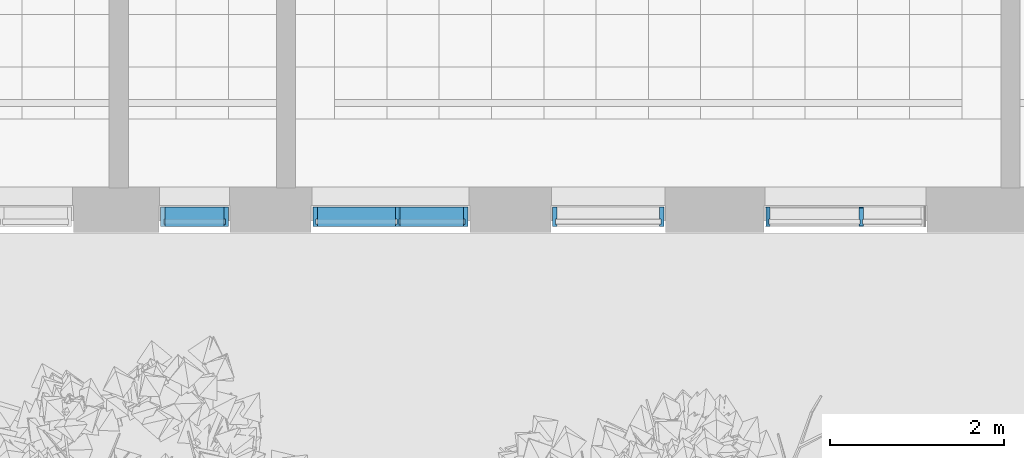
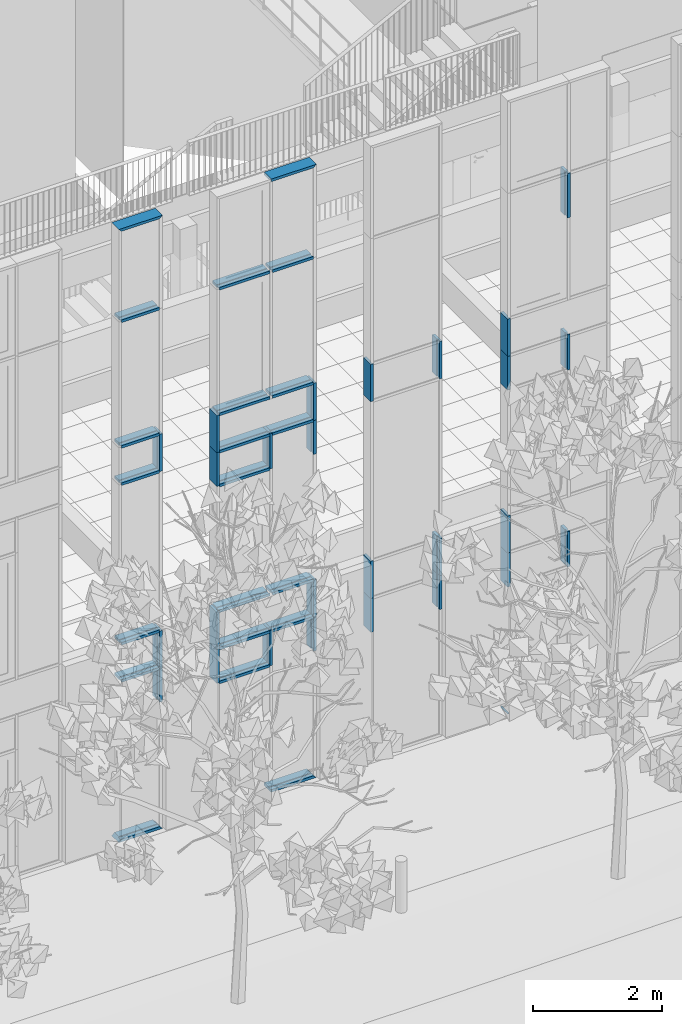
# One storey, part 33 of 246: 48 members, 4 elements without a shape of their own.
"""IFC2X3 building model written with IfcOpenShell, lengths in millimetres."""

from ifc_helpers import new_model, entity, si_unit, converted_unit, derived_unit, money_unit, direction, frame, origin_with_axes, place, context, subcontext, project, spatial, faceted_brep, source, transform, mapped, material, type_object, element, aggregate, save


model = new_model("IFC2X3")

# Units and contexts
model_context = context("Model", 3, precision=0.01, world=origin_with_axes(), true_north=direction((0.0, 1.0)))
body_context = subcontext(model_context, "Body", "Model", "MODEL_VIEW")
ifc_project = project(units=[si_unit("LENGTHUNIT", "METRE", prefix="MILLI"), si_unit("AREAUNIT", "SQUARE_METRE"), si_unit("VOLUMEUNIT", "CUBIC_METRE"), converted_unit("PLANEANGLEUNIT", "DEGREE", entity("IfcPlaneAngleMeasure", 0.0174532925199), si_unit("PLANEANGLEUNIT", "RADIAN"), dimensions=[0, 0, 0, 0, 0, 0, 0]), si_unit("SOLIDANGLEUNIT", "STERADIAN"), money_unit("EUR"), converted_unit("TIMEUNIT", "Year", entity("IfcTimeMeasure", 31556926.0), si_unit("TIMEUNIT", "SECOND"), dimensions=[0, 0, 1, 0, 0, 0, 0]), si_unit("MASSUNIT", "GRAM", prefix="KILO"), si_unit("THERMODYNAMICTEMPERATUREUNIT", "DEGREE_CELSIUS"), si_unit("LUMINOUSINTENSITYUNIT", "LUMEN"), si_unit("ENERGYUNIT", "JOULE", prefix="MEGA"), derived_unit("THERMALCONDUCTANCEUNIT", [(si_unit("POWERUNIT", "WATT"), 1), (si_unit("LENGTHUNIT", "METRE"), -1), (si_unit("THERMODYNAMICTEMPERATUREUNIT", "KELVIN"), -1)]), derived_unit("SPECIFICHEATCAPACITYUNIT", [(si_unit("ENERGYUNIT", "JOULE"), 1), (si_unit("MASSUNIT", "GRAM", prefix="KILO"), -1), (si_unit("THERMODYNAMICTEMPERATUREUNIT", "KELVIN"), -1)]), derived_unit("MASSDENSITYUNIT", [(si_unit("MASSUNIT", "GRAM", prefix="KILO"), 1), (si_unit("VOLUMEUNIT", "CUBIC_METRE"), -1)])], contexts=[model_context])

# Site, building, storey
site_placement = place(None, origin_with_axes())
site = spatial("IfcSite", under=ifc_project, at=site_placement, Name="L.Koidula tn 11b", CompositionType="ELEMENT")
building_placement = place(site_placement, origin_with_axes())
building = spatial("IfcBuilding", under=site, at=building_placement, Name="Rakvere Riigigümnaasium", CompositionType="ELEMENT")
storey_placement = place(building_placement, origin_with_axes())
storey = spatial("IfcBuildingStorey", under=building, at=storey_placement, Name="1.korrus 0,00", CompositionType="ELEMENT", Elevation=0.0)

# Curtain wall, members
curtain_wall_type = type_object("IfcCurtainWallType", Name="Curtain Wall Type", PredefinedType="NOTDEFINED")
curtain_wall_1_placement = place(storey_placement, frame((54287.5000684, 5111.45334637, -1.61944652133e-05), z_axis=(0.0, 0.0, 1.0), x_axis=(1.0, 0.0, 0.0)))
curtain_wall_1 = element("IfcCurtainWall", 1, at=curtain_wall_1_placement, inside=storey, type_object=curtain_wall_type, Name="KLF-05-2B")
ifc_material = material(Name="Alumiiniumprofiil (RAL 7021)")
member_type_1 = type_object("IfcMemberType", Name="Boundary Frame 50 x 222", PredefinedType="MULLION")
shared_shape_1 = source(origin_with_axes(), body_context, "Body", "Brep", [
    faceted_brep([(37.0, -32.5, 705.000000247), (37.0, 32.5, 705.000000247), (50.0, 32.5, 705.000000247), (50.0, 53.0, 705.000000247), (0.0, 53.0, 705.000000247), (0.0, -169.0, 705.000000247), (50.0, -169.0, 705.000000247), (50.0, -32.5, 705.000000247), (37.0, -32.5, 0.0), (37.0, 32.5, 0.0), (50.0, 32.5, 0.0), (50.0, 53.0, 0.0), (0.0, 53.0, 0.0), (0.0, -169.0, 0.0), (50.0, -169.0, 0.0), (50.0, -32.5, 0.0)], [[[0, 1, 2, 3, 4, 5, 6, 7]], [[1, 0, 8, 9]], [[10, 2, 1, 9]], [[2, 10, 11, 3]], [[12, 4, 3, 11]], [[13, 5, 4, 12]], [[14, 6, 5, 13]], [[15, 7, 6, 14]], [[0, 7, 15, 8]], [[8, 15, 14, 13, 12, 11, 10, 9]]]),
])
member_1_placement = place(curtain_wall_1_placement, frame((402.500049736, 0.0, 6760.0), z_axis=(0.0, 0.0, 1.0), x_axis=(-1.0, 0.0, 0.0)))
member_1 = element("IfcMember", 2, at=member_1_placement, type_object=member_type_1, material=ifc_material, Name="KLF-05-6B-Profiilid", ObjectType="MULLION", context=body_context, shape_type="MappedRepresentation", body=[
    mapped(shared_shape_1, transform((0.0, 0.0, 0.0))),
])
member_2_placement = place(curtain_wall_1_placement, frame((402.500049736, 0.0, 3040.0), z_axis=(0.0, 0.0, 1.0), x_axis=(-1.0, 0.0, 0.0)))
member_2 = element("IfcMember", 3, at=member_2_placement, type_object=member_type_1, material=ifc_material, Name="KLF-05-3B-Profiilid", ObjectType="MULLION", context=body_context, shape_type="MappedRepresentation", body=[
    mapped(shared_shape_1, transform((0.0, 0.0, 0.0))),
])

curtain_wall_2_placement = place(storey_placement, frame((51550.0001978, 5111.45334637, -1.61944652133e-05), z_axis=(0.0, 0.0, 1.0), x_axis=(1.0, 0.0, 0.0)))
curtain_wall_2 = element("IfcCurtainWall", 4, at=curtain_wall_2_placement, inside=storey, type_object=curtain_wall_type, Name="KLF-05-4A")
member_3_placement = place(curtain_wall_2_placement, frame((390.000208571, 0.0, 6760.0), z_axis=(0.0, 0.0, 1.0), x_axis=(-1.0, 0.0, 0.0)))
member_3 = element("IfcMember", 5, at=member_3_placement, type_object=member_type_1, material=ifc_material, Name="KLF-05-9A-Profiilid", ObjectType="MULLION", context=body_context, shape_type="MappedRepresentation", body=[
    mapped(shared_shape_1, transform((0.0, 0.0, 0.0))),
])
member_4_placement = place(curtain_wall_2_placement, frame((390.000208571, 0.0, 3040.0), z_axis=(0.0, 0.0, 1.0), x_axis=(-1.0, 0.0, 0.0)))
member_4 = element("IfcMember", 6, at=member_4_placement, type_object=member_type_1, material=ifc_material, Name="KLF-05-7A-Profiilid", ObjectType="MULLION", context=body_context, shape_type="MappedRepresentation", body=[
    mapped(shared_shape_1, transform((0.0, 0.0, 0.0))),
])

curtain_wall_3_placement = place(storey_placement, frame((56300.0000472, 5111.45334637, -1.61944652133e-05), z_axis=(0.0, 0.0, 1.0), x_axis=(1.0, 0.0, 0.0)))
curtain_wall_3 = element("IfcCurtainWall", 7, at=curtain_wall_3_placement, inside=storey, type_object=curtain_wall_type, Name="KLF-05-1E")
member_5_placement = place(curtain_wall_3_placement, frame((640.000087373, 0.0, 6760.0), z_axis=(0.0, 0.0, 1.0), x_axis=(-1.0, 0.0, 0.0)))
member_5 = element("IfcMember", 8, at=member_5_placement, type_object=member_type_1, material=ifc_material, Name="KLF-05-6A-Profiilid", ObjectType="MULLION", context=body_context, shape_type="MappedRepresentation", body=[
    mapped(shared_shape_1, transform((0.0, 0.0, 0.0))),
])
member_6_placement = place(curtain_wall_3_placement, frame((640.000087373, 0.0, 3040.0), z_axis=(0.0, 0.0, 1.0), x_axis=(-1.0, 0.0, 0.0)))
member_6 = element("IfcMember", 9, at=member_6_placement, type_object=member_type_1, material=ifc_material, Name="KLF-05-4A-Profiilid", ObjectType="MULLION", context=body_context, shape_type="MappedRepresentation", body=[
    mapped(shared_shape_1, transform((0.0, 0.0, 0.0))),
])

# Member
shared_shape_2 = source(origin_with_axes(), body_context, "Body", "Brep", [
    faceted_brep([(37.0, -32.5, 640.0), (37.0, 32.5, 640.0), (50.0, 32.5, 640.0), (50.0, 53.0, 640.0), (0.0, 53.0, 640.0), (0.0, -169.0, 640.0), (50.0, -169.0, 640.0), (50.0, -32.5, 640.0), (37.0, -32.5, 0.0), (37.0, 32.5, 0.0), (50.0, 32.5, 0.0), (50.0, 53.0, 0.0), (0.0, 53.0, 0.0), (0.0, -169.0, 0.0), (50.0, -169.0, 0.0), (50.0, -32.5, 0.0)], [[[0, 1, 2, 3, 4, 5, 6, 7]], [[1, 0, 8, 9]], [[10, 2, 1, 9]], [[2, 10, 11, 3]], [[12, 4, 3, 11]], [[13, 5, 4, 12]], [[14, 6, 5, 13]], [[15, 7, 6, 14]], [[0, 7, 15, 8]], [[8, 15, 14, 13, 12, 11, 10, 9]]]),
])
member_7_placement = place(curtain_wall_1_placement, frame((402.500049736, 0.0, 6120.0), z_axis=(0.0, 0.0, 1.0), x_axis=(-1.0, 0.0, 0.0)))
member_7 = element("IfcMember", 10, at=member_7_placement, type_object=member_type_1, material=ifc_material, Name="KLF-05-5B-Profiilid", ObjectType="MULLION", context=body_context, shape_type="MappedRepresentation", body=[
    mapped(shared_shape_2, transform((0.0, 0.0, 0.0))),
])

member_8_placement = place(curtain_wall_1_placement, frame((402.500049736, 0.0, 2400.0), z_axis=(0.0, 0.0, 1.0), x_axis=(-1.0, 0.0, 0.0)))
member_8 = element("IfcMember", 11, at=member_8_placement, type_object=member_type_1, material=ifc_material, Name="KLF-05-2B-Profiilid", ObjectType="MULLION", context=body_context, shape_type="MappedRepresentation", body=[
    mapped(shared_shape_2, transform((0.0, 0.0, 0.0))),
])

member_9_placement = place(curtain_wall_2_placement, frame((390.000208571, 0.0, 2400.0), z_axis=(0.0, 0.0, 1.0), x_axis=(-1.0, 0.0, 0.0)))
member_9 = element("IfcMember", 12, at=member_9_placement, type_object=member_type_1, material=ifc_material, Name="KLF-05-6A-Profiilid", ObjectType="MULLION", context=body_context, shape_type="MappedRepresentation", body=[
    mapped(shared_shape_2, transform((0.0, 0.0, 0.0))),
])

member_10_placement = place(curtain_wall_3_placement, frame((640.000087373, 0.0, 2400.0), z_axis=(0.0, 0.0, 1.0), x_axis=(-1.0, 0.0, 0.0)))
member_10 = element("IfcMember", 13, at=member_10_placement, type_object=member_type_1, material=ifc_material, Name="KLF-05-3A-Profiilid", ObjectType="MULLION", context=body_context, shape_type="MappedRepresentation", body=[
    mapped(shared_shape_2, transform((0.0, 0.0, 0.0))),
])

shared_shape_3 = source(origin_with_axes(), body_context, "Body", "Brep", [
    faceted_brep([(-37.0, -32.5, 705.0), (-50.0, -32.5, 705.0), (-50.0, -169.0, 705.0), (0.0, -169.0, 705.0), (0.0, 53.0, 705.0), (-50.0, 53.0, 705.0), (-50.0, 32.5, 705.0), (-37.0, 32.5, 705.0), (-37.0, -32.5, 0.0), (-50.0, -32.5, 0.0), (-50.0, -169.0, 0.0), (0.0, -169.0, 0.0), (0.0, 53.0, 0.0), (-50.0, 53.0, 0.0), (-50.0, 32.5, 0.0), (-37.0, 32.5, 0.0)], [[[0, 1, 2, 3, 4, 5, 6, 7]], [[0, 8, 9, 1]], [[9, 10, 2, 1]], [[10, 11, 3, 2]], [[11, 12, 4, 3]], [[12, 13, 5, 4]], [[6, 5, 13, 14]], [[14, 15, 7, 6]], [[7, 15, 8, 0]], [[8, 15, 14, 13, 12, 11, 10, 9]]]),
])
member_11_placement = place(curtain_wall_1_placement, frame((-1377.50004974, 0.0, 3040.0), z_axis=(0.0, 0.0, 1.0), x_axis=(-1.0, 0.0, 0.0)))
member_11 = element("IfcMember", 14, at=member_11_placement, type_object=member_type_1, material=ifc_material, Name="KLF-05-6B-Profiilid", ObjectType="MULLION", context=body_context, shape_type="MappedRepresentation", body=[
    mapped(shared_shape_3, transform((0.0, 0.0, 0.0))),
])

member_12_placement = place(curtain_wall_1_placement, frame((-1377.50004974, 0.0, 6760.0), z_axis=(0.0, 0.0, 1.0), x_axis=(-1.0, 0.0, 0.0)))
member_12 = element("IfcMember", 15, at=member_12_placement, type_object=member_type_1, material=ifc_material, Name="KLF-05-3B-Profiilid", ObjectType="MULLION", context=body_context, shape_type="MappedRepresentation", body=[
    mapped(shared_shape_3, transform((0.0, 0.0, 0.0))),
])

member_13_placement = place(curtain_wall_3_placement, frame((-640.00005, 0.0, 3040.0), z_axis=(0.0, 0.0, 1.0), x_axis=(-1.0, 0.0, 0.0)))
member_13 = element("IfcMember", 16, at=member_13_placement, type_object=member_type_1, material=ifc_material, Name="KLF-05-4A-Profiilid", ObjectType="MULLION", context=body_context, shape_type="MappedRepresentation", body=[
    mapped(shared_shape_3, transform((0.0, 0.0, 0.0))),
])

member_14_placement = place(curtain_wall_3_placement, frame((-640.00005, 0.0, 6760.0), z_axis=(0.0, 0.0, 1.0), x_axis=(-1.0, 0.0, 0.0)))
member_14 = element("IfcMember", 17, at=member_14_placement, type_object=member_type_1, material=ifc_material, Name="KLF-05-2A-Profiilid", ObjectType="MULLION", context=body_context, shape_type="MappedRepresentation", body=[
    mapped(shared_shape_3, transform((0.0, 0.0, 0.0))),
])

# Curtain wall, members
curtain_wall_4_placement = place(storey_placement, frame((59064.0000846, 5111.45334637, -8.09717250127e-06), z_axis=(0.0, 0.0, 1.0), x_axis=(1.0, 0.0, 0.0)))
curtain_wall_4 = element("IfcCurtainWall", 18, at=curtain_wall_4_placement, inside=storey, type_object=curtain_wall_type, Name="KLF-05-2A")
member_15_placement = place(curtain_wall_4_placement, frame((-954.000087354, 0.0, 3040.0), z_axis=(0.0, 0.0, 1.0), x_axis=(-1.0, 0.0, 0.0)))
member_15 = element("IfcMember", 19, at=member_15_placement, type_object=member_type_1, material=ifc_material, Name="KLF-05-7A-Profiilid", ObjectType="MULLION", context=body_context, shape_type="MappedRepresentation", body=[
    mapped(shared_shape_3, transform((0.0, 0.0, 0.0))),
])
member_16_placement = place(curtain_wall_4_placement, frame((-954.000087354, 0.0, 6760.0), z_axis=(0.0, 0.0, 1.0), x_axis=(-1.0, 0.0, 0.0)))
member_16 = element("IfcMember", 20, at=member_16_placement, type_object=member_type_1, material=ifc_material, Name="KLF-05-4A-Profiilid", ObjectType="MULLION", context=body_context, shape_type="MappedRepresentation", body=[
    mapped(shared_shape_3, transform((0.0, 0.0, 0.0))),
])

# Member
shared_shape_4 = source(origin_with_axes(), body_context, "Body", "Brep", [
    faceted_brep([(-37.0, -32.5, 640.0), (-50.0, -32.5, 640.0), (-50.0, -169.0, 640.0), (0.0, -169.0, 640.0), (0.0, 53.0, 640.0), (-50.0, 53.0, 640.0), (-50.0, 32.5, 640.0), (-37.0, 32.5, 640.0), (-37.0, -32.5, 0.0), (-50.0, -32.5, 0.0), (-50.0, -169.0, 0.0), (0.0, -169.0, 0.0), (0.0, 53.0, 0.0), (-50.0, 53.0, 0.0), (-50.0, 32.5, 0.0), (-37.0, 32.5, 0.0)], [[[0, 1, 2, 3, 4, 5, 6, 7]], [[0, 8, 9, 1]], [[9, 10, 2, 1]], [[10, 11, 3, 2]], [[11, 12, 4, 3]], [[12, 13, 5, 4]], [[6, 5, 13, 14]], [[14, 15, 7, 6]], [[7, 15, 8, 0]], [[8, 15, 14, 13, 12, 11, 10, 9]]]),
])
member_17_placement = place(curtain_wall_1_placement, frame((-1377.50004974, 0.0, 2400.0), z_axis=(0.0, 0.0, 1.0), x_axis=(-1.0, 0.0, 0.0)))
member_17 = element("IfcMember", 21, at=member_17_placement, type_object=member_type_1, material=ifc_material, Name="KLF-05-7B-Profiilid", ObjectType="MULLION", context=body_context, shape_type="MappedRepresentation", body=[
    mapped(shared_shape_4, transform((0.0, 0.0, 0.0))),
])

member_18_placement = place(curtain_wall_1_placement, frame((-1377.50004974, 0.0, 6120.0), z_axis=(0.0, 0.0, 1.0), x_axis=(-1.0, 0.0, 0.0)))
member_18 = element("IfcMember", 22, at=member_18_placement, type_object=member_type_1, material=ifc_material, Name="KLF-05-4B-Profiilid", ObjectType="MULLION", context=body_context, shape_type="MappedRepresentation", body=[
    mapped(shared_shape_4, transform((0.0, 0.0, 0.0))),
])

member_19_placement = place(curtain_wall_3_placement, frame((-640.00005, 0.0, 2400.0), z_axis=(0.0, 0.0, 1.0), x_axis=(-1.0, 0.0, 0.0)))
member_19 = element("IfcMember", 23, at=member_19_placement, type_object=member_type_1, material=ifc_material, Name="KLF-05-5A-Profiilid", ObjectType="MULLION", context=body_context, shape_type="MappedRepresentation", body=[
    mapped(shared_shape_4, transform((0.0, 0.0, 0.0))),
])

aggregate(curtain_wall_3, [member_19, member_13, member_14, member_5, member_6, member_10])

member_20_placement = place(curtain_wall_4_placement, frame((-954.000087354, 0.0, 2400.0), z_axis=(0.0, 0.0, 1.0), x_axis=(-1.0, 0.0, 0.0)))
member_20 = element("IfcMember", 24, at=member_20_placement, type_object=member_type_1, material=ifc_material, Name="KLF-05-8A-Profiilid", ObjectType="MULLION", context=body_context, shape_type="MappedRepresentation", body=[
    mapped(shared_shape_4, transform((0.0, 0.0, 0.0))),
])

member_21_placement = place(curtain_wall_4_placement, frame((-954.000087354, 0.0, 6120.0), z_axis=(0.0, 0.0, 1.0), x_axis=(-1.0, 0.0, 0.0)))
member_21 = element("IfcMember", 25, at=member_21_placement, type_object=member_type_1, material=ifc_material, Name="KLF-05-5A-Profiilid", ObjectType="MULLION", context=body_context, shape_type="MappedRepresentation", body=[
    mapped(shared_shape_4, transform((0.0, 0.0, 0.0))),
])

member_type_2 = type_object("IfcMemberType", Name="Transom Frame 50 x 222", PredefinedType="MULLION")
shared_shape_5 = source(origin_with_axes(), body_context, "Body", "Brep", [
    faceted_brep([(-12.0, -32.5, 730.000405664), (-25.0, -32.5, 730.000405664), (-25.0, -169.0, 730.000405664), (25.0, -169.0, 730.000405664), (25.0, -32.5, 730.000405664), (12.0, -32.5, 730.000405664), (12.0, 32.5, 730.000405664), (25.0, 32.5, 730.000405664), (25.0, 53.0, 730.000405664), (-25.0, 53.0, 730.000405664), (-25.0, 32.5, 730.000405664), (-12.0, 32.5, 730.000405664), (-12.0, -32.5, 50.0), (-25.0, -32.5, 50.0), (-25.0, -169.0, 50.0), (25.0, -169.0, 50.0), (25.0, -32.5, 50.0), (12.0, -32.5, 50.0), (12.0, 32.5, 50.0), (25.0, 32.5, 50.0), (25.0, 53.0, 50.0), (-25.0, 53.0, 50.0), (-25.0, 32.5, 50.0), (-12.0, 32.5, 50.0)], [[[0, 1, 2, 3, 4, 5, 6, 7, 8, 9, 10, 11]], [[1, 0, 12, 13]], [[1, 13, 14, 2]], [[2, 14, 15, 3]], [[4, 3, 15, 16]], [[4, 16, 17, 5]], [[5, 17, 18, 6]], [[7, 6, 18, 19]], [[19, 20, 8, 7]], [[8, 20, 21, 9]], [[22, 10, 9, 21]], [[11, 10, 22, 23]], [[0, 11, 23, 12]], [[23, 22, 21, 20, 19, 18, 17, 16, 15, 14, 13, 12]]]),
])
member_22_placement = place(curtain_wall_2_placement, frame((-390.000197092, 0.0, 3040.0), z_axis=(1.0, 0.0, 0.0), x_axis=(0.0, 0.0, 1.0)))
member_22 = element("IfcMember", 26, at=member_22_placement, type_object=member_type_2, material=ifc_material, Name="KLF-05-9A-Profiilid", ObjectType="MULLION", context=body_context, shape_type="MappedRepresentation", body=[
    mapped(shared_shape_5, transform((0.0, 0.0, 0.0))),
])

member_23_placement = place(curtain_wall_2_placement, frame((-390.000197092, 0.0, 9840.0), z_axis=(1.0, 0.0, 0.0), x_axis=(0.0, 0.0, 1.0)))
member_23 = element("IfcMember", 27, at=member_23_placement, type_object=member_type_2, material=ifc_material, Name="KLF-05-0A-Profiilid", ObjectType="MULLION", context=body_context, shape_type="MappedRepresentation", body=[
    mapped(shared_shape_5, transform((0.0, 0.0, 0.0))),
])

member_24_placement = place(curtain_wall_2_placement, frame((-390.000197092, 0.0, 7465.0), z_axis=(1.0, 0.0, 0.0), x_axis=(0.0, 0.0, 1.0)))
member_24 = element("IfcMember", 28, at=member_24_placement, type_object=member_type_2, material=ifc_material, Name="KLF-05-1A-Profiilid", ObjectType="MULLION", context=body_context, shape_type="MappedRepresentation", body=[
    mapped(shared_shape_5, transform((0.0, 0.0, 0.0))),
])

member_25_placement = place(curtain_wall_2_placement, frame((-390.000197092, 0.0, 6760.0), z_axis=(1.0, 0.0, 0.0), x_axis=(0.0, 0.0, 1.0)))
member_25 = element("IfcMember", 29, at=member_25_placement, type_object=member_type_2, material=ifc_material, Name="KLF-05-2A-Profiilid", ObjectType="MULLION", context=body_context, shape_type="MappedRepresentation", body=[
    mapped(shared_shape_5, transform((0.0, 0.0, 0.0))),
])

member_26_placement = place(curtain_wall_2_placement, frame((-390.000197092, 0.0, 3745.0), z_axis=(1.0, 0.0, 0.0), x_axis=(0.0, 0.0, 1.0)))
member_26 = element("IfcMember", 30, at=member_26_placement, type_object=member_type_2, material=ifc_material, Name="KLF-05-7A-Profiilid", ObjectType="MULLION", context=body_context, shape_type="MappedRepresentation", body=[
    mapped(shared_shape_5, transform((0.0, 0.0, 0.0))),
])

member_type_3 = type_object("IfcMemberType", Name="Mullion Frame 50 x 222", PredefinedType="MULLION")
shared_shape_6 = source(origin_with_axes(), body_context, "Body", "Brep", [
    faceted_brep([(-12.0, -32.5, 665.0), (-25.0, -32.5, 665.0), (-25.0, -169.0, 665.0), (25.0, -169.0, 665.0), (25.0, -32.5, 665.0), (12.0, -32.5, 665.0), (12.0, 32.5, 665.0), (25.0, 32.5, 665.0), (25.0, 53.0, 665.0), (-25.0, 53.0, 665.0), (-25.0, 32.5, 665.0), (-12.0, 32.5, 665.0), (-12.0, -32.5, 0.0), (-25.0, -32.5, 0.0), (-25.0, -169.0, 0.0), (25.0, -169.0, 0.0), (25.0, -32.5, 0.0), (12.0, -32.5, 0.0), (12.0, 32.5, 0.0), (25.0, 32.5, 0.0), (25.0, 53.0, 0.0), (-25.0, 53.0, 0.0), (-25.0, 32.5, 0.0), (-12.0, 32.5, 0.0)], [[[0, 1, 2, 3, 4, 5, 6, 7, 8, 9, 10, 11]], [[1, 0, 12, 13]], [[1, 13, 14, 2]], [[3, 2, 14, 15]], [[4, 3, 15, 16]], [[4, 16, 17, 5]], [[5, 17, 18, 6]], [[7, 6, 18, 19]], [[19, 20, 8, 7]], [[9, 8, 20, 21]], [[22, 10, 9, 21]], [[11, 10, 22, 23]], [[0, 11, 23, 12]], [[23, 22, 21, 20, 19, 18, 17, 16, 15, 14, 13, 12]]]),
])
member_27_placement = place(curtain_wall_1_placement, frame((-402.500049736, 0.0, 2400.0), z_axis=(0.0, 0.0, 1.0), x_axis=(-1.0, 0.0, 0.0)))
member_27 = element("IfcMember", 31, at=member_27_placement, type_object=member_type_3, material=ifc_material, Name="KLF-05-2B-Profiilid", ObjectType="MULLION", context=body_context, shape_type="MappedRepresentation", body=[
    mapped(shared_shape_6, transform((0.0, 0.0, 0.0))),
])

member_28_placement = place(curtain_wall_1_placement, frame((-402.500049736, 0.0, 6120.0), z_axis=(0.0, 0.0, 1.0), x_axis=(-1.0, 0.0, 0.0)))
member_28 = element("IfcMember", 32, at=member_28_placement, type_object=member_type_3, material=ifc_material, Name="KLF-05-2B-Profiilid", ObjectType="MULLION", context=body_context, shape_type="MappedRepresentation", body=[
    mapped(shared_shape_6, transform((0.0, 0.0, 0.0))),
])

shared_shape_7 = source(origin_with_axes(), body_context, "Body", "Brep", [
    faceted_brep([(-12.0, -32.5, 755.000075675), (-25.0, -32.5, 755.000075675), (-25.0, -169.0, 755.000074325), (25.0, -169.0, 755.000074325), (25.0, -32.5, 755.000075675), (12.0, -32.5, 755.000075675), (12.0, 32.5, 755.000076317), (25.0, 32.5, 755.000076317), (25.0, 53.0, 755.00007652), (-25.0, 53.0, 755.00007652), (-25.0, 32.5, 755.000076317), (-12.0, 32.5, 755.000076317), (-12.0, -32.5, 25.0), (-25.0, -32.5, 25.0), (-25.0, -169.0, 25.0), (25.0, -169.0, 25.0), (25.0, -32.5, 25.0), (12.0, -32.5, 25.0), (12.0, 32.5, 25.0), (25.0, 32.5, 25.0), (25.0, 53.0, 25.0), (-25.0, 53.0, 25.0), (-25.0, 32.5, 25.0), (-12.0, 32.5, 25.0)], [[[0, 1, 2, 3, 4, 5, 6, 7, 8, 9, 10, 11]], [[1, 0, 12, 13]], [[1, 13, 14, 2]], [[2, 14, 15, 3]], [[4, 3, 15, 16]], [[4, 16, 17, 5]], [[5, 17, 18, 6]], [[7, 6, 18, 19]], [[19, 20, 8, 7]], [[8, 20, 21, 9]], [[22, 10, 9, 21]], [[11, 10, 22, 23]], [[0, 11, 23, 12]], [[23, 22, 21, 20, 19, 18, 17, 16, 15, 14, 13, 12]]]),
])
member_29_placement = place(curtain_wall_1_placement, frame((-402.500049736, 0.0, 9840.0), z_axis=(1.0, 0.0, 0.0), x_axis=(0.0, 0.0, 1.0)))
member_29 = element("IfcMember", 33, at=member_29_placement, type_object=member_type_2, material=ifc_material, Name="KLF-05-5B-Profiilid", ObjectType="MULLION", context=body_context, shape_type="MappedRepresentation", body=[
    mapped(shared_shape_7, transform((0.0, 0.0, 0.0))),
])

member_30_placement = place(curtain_wall_1_placement, frame((-402.500049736, 0.0, 7465.0), z_axis=(1.0, 0.0, 0.0), x_axis=(0.0, 0.0, 1.0)))
member_30 = element("IfcMember", 34, at=member_30_placement, type_object=member_type_2, material=ifc_material, Name="KLF-05-6B-Profiilid", ObjectType="MULLION", context=body_context, shape_type="MappedRepresentation", body=[
    mapped(shared_shape_7, transform((0.0, 0.0, 0.0))),
])

member_31_placement = place(curtain_wall_1_placement, frame((-402.500049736, 0.0, 6760.0), z_axis=(1.0, 0.0, 0.0), x_axis=(0.0, 0.0, 1.0)))
member_31 = element("IfcMember", 35, at=member_31_placement, type_object=member_type_2, material=ifc_material, Name="KLF-05-7B-Profiilid", ObjectType="MULLION", context=body_context, shape_type="MappedRepresentation", body=[
    mapped(shared_shape_7, transform((0.0, 0.0, 0.0))),
])

member_32_placement = place(curtain_wall_1_placement, frame((-402.500049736, 0.0, 3745.0), z_axis=(1.0, 0.0, 0.0), x_axis=(0.0, 0.0, 1.0)))
member_32 = element("IfcMember", 36, at=member_32_placement, type_object=member_type_2, material=ifc_material, Name="KLF-05-8B-Profiilid", ObjectType="MULLION", context=body_context, shape_type="MappedRepresentation", body=[
    mapped(shared_shape_7, transform((0.0, 0.0, 0.0))),
])

member_33_placement = place(curtain_wall_1_placement, frame((-402.500049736, 0.0, 3040.0), z_axis=(1.0, 0.0, 0.0), x_axis=(0.0, 0.0, 1.0)))
member_33 = element("IfcMember", 37, at=member_33_placement, type_object=member_type_2, material=ifc_material, Name="KLF-05-9B-Profiilid", ObjectType="MULLION", context=body_context, shape_type="MappedRepresentation", body=[
    mapped(shared_shape_7, transform((0.0, 0.0, 0.0))),
])

member_type_4 = type_object("IfcMemberType", Name="50 x 208", PredefinedType="MULLION")
shared_shape_8 = source(origin_with_axes(), body_context, "Body", "Brep", [
    faceted_brep([(-12.0, -27.0, 665.0), (-25.0, -27.0, 665.0), (-25.0, -160.0, 665.0), (25.0, -160.0, 665.0), (25.0, -27.0, 665.0), (12.0, -27.0, 665.0), (12.0, 27.0, 665.0), (25.0, 27.0, 665.0), (25.0, 48.0, 665.0), (-25.0, 48.0, 665.0), (-25.0, 27.0, 665.0), (-12.0, 27.0, 665.0), (-12.0, -27.0, 0.0), (-25.0, -27.0, 0.0), (-25.0, -160.0, 0.0), (25.0, -160.0, 0.0), (25.0, -27.0, 0.0), (12.0, -27.0, 0.0), (12.0, 27.0, 0.0), (25.0, 27.0, 0.0), (25.0, 48.0, 0.0), (-25.0, 48.0, 0.0), (-25.0, 27.0, 0.0), (-12.0, 27.0, 0.0)], [[[0, 1, 2, 3, 4, 5, 6, 7, 8, 9, 10, 11]], [[1, 0, 12, 13]], [[1, 13, 14, 2]], [[3, 2, 14, 15]], [[4, 3, 15, 16]], [[4, 16, 17, 5]], [[5, 17, 18, 6]], [[7, 6, 18, 19]], [[19, 20, 8, 7]], [[9, 8, 20, 21]], [[22, 10, 9, 21]], [[11, 10, 22, 23]], [[0, 11, 23, 12]], [[23, 22, 21, 20, 19, 18, 17, 16, 15, 14, 13, 12]]]),
])
member_34_placement = place(curtain_wall_4_placement, frame((140.999912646, 0.0, 2400.0), z_axis=(0.0, 0.0, 1.0), x_axis=(-1.0, 0.0, 0.0)))
member_34 = element("IfcMember", 38, at=member_34_placement, type_object=member_type_4, material=ifc_material, Name="KLF-41", ObjectType="MULLION", context=body_context, shape_type="MappedRepresentation", body=[
    mapped(shared_shape_8, transform((0.0, 0.0, 0.0))),
])

member_35_placement = place(curtain_wall_4_placement, frame((140.999912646, 0.0, 6120.0), z_axis=(0.0, 0.0, 1.0), x_axis=(-1.0, 0.0, 0.0)))
member_35 = element("IfcMember", 39, at=member_35_placement, type_object=member_type_4, material=ifc_material, Name="KLF-96", ObjectType="MULLION", context=body_context, shape_type="MappedRepresentation", body=[
    mapped(shared_shape_8, transform((0.0, 0.0, 0.0))),
])

shared_shape_9 = source(origin_with_axes(), body_context, "Body", "Brep", [
    faceted_brep([(37.0, -32.5, 743.000405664), (37.0, 32.5, 743.000405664), (50.0, 32.5, 730.000405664), (50.0, 53.0, 730.000405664), (0.0, 53.0, 780.000405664), (0.0, -169.0, 780.000405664), (50.0, -169.0, 730.000405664), (50.0, -32.5, 730.000405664), (37.0, -32.5, 37.0), (37.0, 32.5, 37.0), (50.0, 32.5, 50.0), (50.0, 53.0, 50.0), (0.0, 53.0, 0.0), (0.0, -169.0, 0.0), (50.0, -169.0, 50.0), (50.0, -32.5, 50.0)], [[[0, 1, 2, 3, 4, 5, 6, 7]], [[1, 0, 8, 9]], [[10, 2, 1, 9]], [[2, 10, 11, 3]], [[4, 3, 11, 12]], [[5, 4, 12, 13]], [[6, 5, 13, 14]], [[15, 7, 6, 14]], [[0, 7, 15, 8]], [[8, 15, 14, 13, 12, 11, 10, 9]]]),
])
member_36_placement = place(curtain_wall_2_placement, frame((-390.000197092, 0.0, 0.0), z_axis=(1.0, 0.0, 0.0), x_axis=(0.0, 0.0, 1.0)))
member_36 = element("IfcMember", 40, at=member_36_placement, type_object=member_type_1, material=ifc_material, Name="KLF-05-4A-Profiilid", ObjectType="MULLION", context=body_context, shape_type="MappedRepresentation", body=[
    mapped(shared_shape_9, transform((0.0, 0.0, 0.0))),
])

member_37_placement = place(curtain_wall_2_placement, frame((390.000118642, 0.0, 11590.0000411), z_axis=(-1.0, 0.0, 0.0), x_axis=(0.0, 0.0, -1.0)))
member_37 = element("IfcMember", 41, at=member_37_placement, type_object=member_type_1, material=ifc_material, Name="KLF-05-2A-Profiilid", ObjectType="MULLION", context=body_context, shape_type="MappedRepresentation", body=[
    mapped(shared_shape_9, transform((0.0, 0.0, 0.0))),
])

aggregate(curtain_wall_2, [member_36, member_22, member_23, member_24, member_25, member_3, member_26, member_4, member_9, member_37])

shared_shape_10 = source(origin_with_axes(), body_context, "Body", "Brep", [
    faceted_brep([(-12.0, -32.5, 950.0), (-25.0, -32.5, 950.0), (-25.0, -169.0, 950.0), (25.0, -169.0, 950.0), (25.0, -32.5, 950.0), (12.0, -32.5, 950.0), (12.0, 32.5, 950.0), (25.0, 32.5, 950.0), (25.0, 53.0, 950.0), (-25.0, 53.0, 950.0), (-25.0, 32.5, 950.0), (-12.0, 32.5, 950.0), (-12.0, -32.5, 50.0), (-25.0, -32.5, 50.0), (-25.0, -169.0, 50.0), (25.0, -169.0, 50.0), (25.0, -32.5, 50.0), (12.0, -32.5, 50.0), (12.0, 32.5, 50.0), (25.0, 32.5, 50.0), (25.0, 53.0, 50.0), (-25.0, 53.0, 50.0), (-25.0, 32.5, 50.0), (-12.0, 32.5, 50.0)], [[[0, 1, 2, 3, 4, 5, 6, 7, 8, 9, 10, 11]], [[1, 0, 12, 13]], [[1, 13, 14, 2]], [[2, 14, 15, 3]], [[4, 3, 15, 16]], [[4, 16, 17, 5]], [[5, 17, 18, 6]], [[7, 6, 18, 19]], [[19, 20, 8, 7]], [[8, 20, 21, 9]], [[22, 10, 9, 21]], [[11, 10, 22, 23]], [[0, 11, 23, 12]], [[23, 22, 21, 20, 19, 18, 17, 16, 15, 14, 13, 12]]]),
])
member_38_placement = place(curtain_wall_1_placement, frame((-1377.50004974, 0.0, 2400.0), z_axis=(1.0, 0.0, 0.0), x_axis=(0.0, 0.0, 1.0)))
member_38 = element("IfcMember", 42, at=member_38_placement, type_object=member_type_2, material=ifc_material, Name="KLF-05-2B-Profiilid", ObjectType="MULLION", context=body_context, shape_type="MappedRepresentation", body=[
    mapped(shared_shape_10, transform((0.0, 0.0, 0.0))),
])

member_39_placement = place(curtain_wall_1_placement, frame((-1377.50004974, 0.0, 3040.0), z_axis=(1.0, 0.0, 0.0), x_axis=(0.0, 0.0, 1.0)))
member_39 = element("IfcMember", 43, at=member_39_placement, type_object=member_type_2, material=ifc_material, Name="KLF-05-2B-Profiilid", ObjectType="MULLION", context=body_context, shape_type="MappedRepresentation", body=[
    mapped(shared_shape_10, transform((0.0, 0.0, 0.0))),
])

member_40_placement = place(curtain_wall_1_placement, frame((-1377.50004974, 0.0, 3745.0), z_axis=(1.0, 0.0, 0.0), x_axis=(0.0, 0.0, 1.0)))
member_40 = element("IfcMember", 44, at=member_40_placement, type_object=member_type_2, material=ifc_material, Name="KLF-05-2B-Profiilid", ObjectType="MULLION", context=body_context, shape_type="MappedRepresentation", body=[
    mapped(shared_shape_10, transform((0.0, 0.0, 0.0))),
])

member_41_placement = place(curtain_wall_1_placement, frame((-1377.50004974, 0.0, 6120.0), z_axis=(1.0, 0.0, 0.0), x_axis=(0.0, 0.0, 1.0)))
member_41 = element("IfcMember", 45, at=member_41_placement, type_object=member_type_2, material=ifc_material, Name="KLF-05-2B-Profiilid", ObjectType="MULLION", context=body_context, shape_type="MappedRepresentation", body=[
    mapped(shared_shape_10, transform((0.0, 0.0, 0.0))),
])

member_42_placement = place(curtain_wall_1_placement, frame((-1377.50004974, 0.0, 6760.0), z_axis=(1.0, 0.0, 0.0), x_axis=(0.0, 0.0, 1.0)))
member_42 = element("IfcMember", 46, at=member_42_placement, type_object=member_type_2, material=ifc_material, Name="KLF-05-2B-Profiilid", ObjectType="MULLION", context=body_context, shape_type="MappedRepresentation", body=[
    mapped(shared_shape_10, transform((0.0, 0.0, 0.0))),
])

member_43_placement = place(curtain_wall_1_placement, frame((-1377.50004974, 0.0, 7465.0), z_axis=(1.0, 0.0, 0.0), x_axis=(0.0, 0.0, 1.0)))
member_43 = element("IfcMember", 47, at=member_43_placement, type_object=member_type_2, material=ifc_material, Name="KLF-05-2B-Profiilid", ObjectType="MULLION", context=body_context, shape_type="MappedRepresentation", body=[
    mapped(shared_shape_10, transform((0.0, 0.0, 0.0))),
])

member_44_placement = place(curtain_wall_1_placement, frame((-1377.50004974, 0.0, 9840.0), z_axis=(1.0, 0.0, 0.0), x_axis=(0.0, 0.0, 1.0)))
member_44 = element("IfcMember", 48, at=member_44_placement, type_object=member_type_2, material=ifc_material, Name="KLF-05-8B-Profiilid", ObjectType="MULLION", context=body_context, shape_type="MappedRepresentation", body=[
    mapped(shared_shape_10, transform((0.0, 0.0, 0.0))),
])

shared_shape_11 = source(origin_with_axes(), body_context, "Body", "Brep", [
    faceted_brep([(-12.0, -32.5, 840.0), (-25.0, -32.5, 840.0), (-25.0, -169.0, 840.0), (25.0, -169.0, 840.0), (25.0, -32.5, 840.0), (12.0, -32.5, 840.0), (12.0, 32.5, 840.0), (25.0, 32.5, 840.0), (25.0, 53.0, 840.0), (-25.0, 53.0, 840.0), (-25.0, 32.5, 840.0), (-12.0, 32.5, 840.0), (-12.0, -32.5, 0.0), (-25.0, -32.5, 0.0), (-25.0, -169.0, 0.0), (25.0, -169.0, 0.0), (25.0, -32.5, 0.0), (12.0, -32.5, 0.0), (12.0, 32.5, 0.0), (25.0, 32.5, 0.0), (25.0, 53.0, 0.0), (-25.0, 53.0, 0.0), (-25.0, 32.5, 0.0), (-12.0, 32.5, 0.0)], [[[0, 1, 2, 3, 4, 5, 6, 7, 8, 9, 10, 11]], [[1, 0, 12, 13]], [[1, 13, 14, 2]], [[3, 2, 14, 15]], [[4, 3, 15, 16]], [[4, 16, 17, 5]], [[5, 17, 18, 6]], [[7, 6, 18, 19]], [[19, 20, 8, 7]], [[9, 8, 20, 21]], [[22, 10, 9, 21]], [[11, 10, 22, 23]], [[0, 11, 23, 12]], [[23, 22, 21, 20, 19, 18, 17, 16, 15, 14, 13, 12]]]),
])
member_45_placement = place(curtain_wall_4_placement, frame((140.999912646, 0.0, 9000.0), z_axis=(0.0, 0.0, 1.0), x_axis=(-1.0, 0.0, 0.0)))
member_45 = element("IfcMember", 49, at=member_45_placement, type_object=member_type_3, material=ifc_material, Name="KLF-05-3A-Profiilid", ObjectType="MULLION", context=body_context, shape_type="MappedRepresentation", body=[
    mapped(shared_shape_11, transform((0.0, 0.0, 0.0))),
])

shared_shape_12 = source(origin_with_axes(), body_context, "Body", "Brep", [
    faceted_brep([(37.0, -32.5, 768.000099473), (37.0, 32.5, 768.000099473), (50.0, 32.5, 755.000099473), (50.0, 53.0, 755.000099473), (0.0, 53.0, 805.000099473), (0.0, -169.0, 805.000099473), (50.0, -169.0, 755.000099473), (50.0, -32.5, 755.000099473), (37.0, -32.5, 0.0), (37.0, 32.5, 0.0), (50.0, 32.5, 0.0), (50.0, 53.0, 0.0), (0.0, 53.0, 0.0), (0.0, -169.0, 0.0), (50.0, -169.0, 0.0), (50.0, -32.5, 0.0)], [[[0, 1, 2, 3, 4, 5, 6, 7]], [[1, 0, 8, 9]], [[10, 2, 1, 9]], [[2, 10, 11, 3]], [[12, 4, 3, 11]], [[13, 5, 4, 12]], [[14, 6, 5, 13]], [[15, 7, 6, 14]], [[0, 7, 15, 8]], [[8, 15, 14, 13, 12, 11, 10, 9]]]),
])
member_46_placement = place(curtain_wall_1_placement, frame((-402.500049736, 0.0, 0.0), z_axis=(1.0, 0.0, 0.0), x_axis=(0.0, 0.0, 1.0)))
member_46 = element("IfcMember", 50, at=member_46_placement, type_object=member_type_1, material=ifc_material, Name="KLF-05-0B-Profiilid", ObjectType="MULLION", context=body_context, shape_type="MappedRepresentation", body=[
    mapped(shared_shape_12, transform((0.0, 0.0, 0.0))),
])

shared_shape_13 = source(origin_with_axes(), body_context, "Body", "Brep", [
    faceted_brep([(37.0, -32.5, 805.000075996), (37.0, 32.5, 805.000075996), (50.0, 32.5, 805.000075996), (50.0, 53.0, 805.000075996), (0.0, 53.0, 805.000075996), (0.0, -169.0, 805.000075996), (50.0, -169.0, 805.000075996), (50.0, -32.5, 805.000075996), (37.0, -32.5, 37.0), (37.0, 32.5, 37.0), (50.0, 32.5, 50.0), (50.0, 53.0, 50.0), (0.0, 53.0, 0.0), (0.0, -169.0, 0.0), (50.0, -169.0, 50.0), (50.0, -32.5, 50.0)], [[[0, 1, 2, 3, 4, 5, 6, 7]], [[1, 0, 8, 9]], [[10, 2, 1, 9]], [[2, 10, 11, 3]], [[4, 3, 11, 12]], [[5, 4, 12, 13]], [[6, 5, 13, 14]], [[15, 7, 6, 14]], [[0, 7, 15, 8]], [[8, 15, 14, 13, 12, 11, 10, 9]]]),
])
member_47_placement = place(curtain_wall_1_placement, frame((402.50002626, 0.0, 11589.9998319), z_axis=(-1.0, 0.0, 0.0), x_axis=(0.0, 0.0, -1.0)))
member_47 = element("IfcMember", 51, at=member_47_placement, type_object=member_type_1, material=ifc_material, Name="KLF-05-9B-Profiilid", ObjectType="MULLION", context=body_context, shape_type="MappedRepresentation", body=[
    mapped(shared_shape_13, transform((0.0, 0.0, 0.0))),
])

aggregate(curtain_wall_1, [member_38, member_27, member_39, member_40, member_41, member_42, member_43, member_28, member_44, member_17, member_11, member_18, member_12, member_29, member_30, member_1, member_31, member_7, member_32, member_2, member_33, member_8, member_46, member_47])

shared_shape_14 = source(origin_with_axes(), body_context, "Body", "Brep", [
    faceted_brep([(0.0, 53.0, 0.0), (0.0, 53.0, 19.999885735), (19.999885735, 53.0, 19.999885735), (0.0, -169.0, 0.0), (0.0, -169.0, 19.999885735), (19.999885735, -169.0, 19.999885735)], [[[0, 1, 2]], [[3, 4, 1, 0]], [[2, 1, 4, 5]], [[2, 5, 3, 0]], [[5, 4, 3]]]),
])
member_48_placement = place(curtain_wall_4_placement, frame((-954.000087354, 0.0, 0.0), z_axis=(1.0, 0.0, 0.0), x_axis=(0.0, 0.0, 1.0)))
member_48 = element("IfcMember", 52, at=member_48_placement, type_object=member_type_1, material=ifc_material, Name="KLF-05-0A-Profiilid", ObjectType="MULLION", context=body_context, shape_type="MappedRepresentation", body=[
    mapped(shared_shape_14, transform((0.0, 0.0, 0.0))),
])

aggregate(curtain_wall_4, [member_34, member_35, member_45, member_20, member_15, member_21, member_16, member_48])

save(model, "model.ifc")
